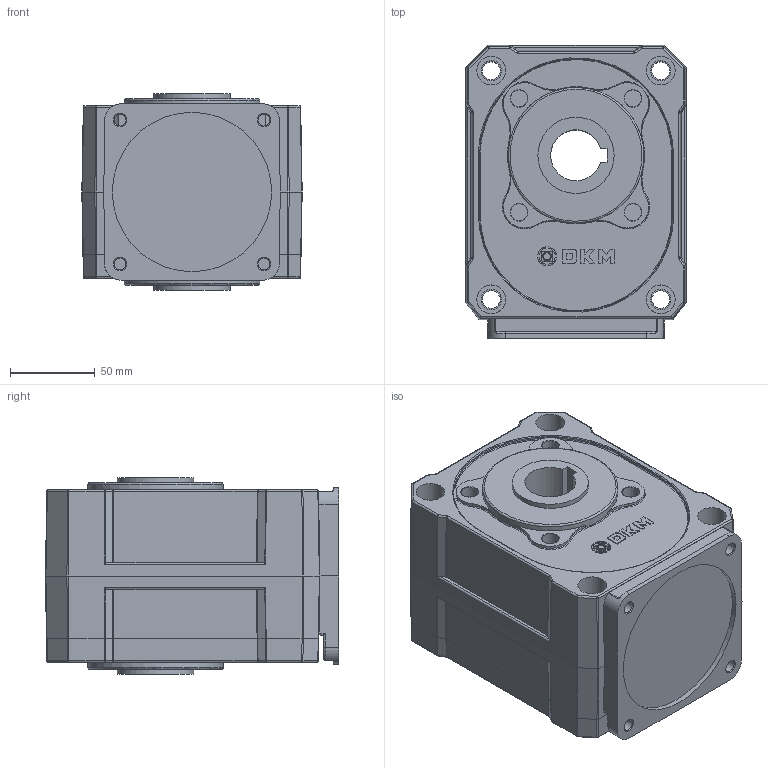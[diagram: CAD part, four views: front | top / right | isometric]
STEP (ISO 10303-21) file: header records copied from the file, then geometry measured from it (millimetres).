
FILE_DESCRIPTION (( 'STEP AP203' ), '1' );
FILE_NAME ('104S 橫撬綰葬.STEP', '2020-04-21T00:38:27', ( '' ), ( '' ), 'SwSTEP 2.0', 'SolidWorks 2012', '' );
FILE_SCHEMA (( 'CONFIG_CONTROL_DESIGN' ));
Length unit declared in the file: millimetre
Products named in the file (4): 104S 橫撬綰葬; 10HCS; 104S_COVER; 104S_CASE
Assembly tree (3 placements, depth 2):
  104S 橫撬綰葬
    104S_CASE
    104S_COVER
    10HCS
Bounding box: 130 x 173 x 116 mm (x, y, z)
Volume: 1974357.4 mm3; surface area: 218399.8 mm2
Topology: 3 solids, 8 shells, 635 faces, 1502 edges, 931 vertices
Faces by surface type: plane 253, cylinder 199, bspline 161, cone 22
Full cylindrical faces by diameter (mm): 3.993 x2, 5.269 x2, 6 x4, 7 x8, 10 x4, 10.5 x4, 12 x8, 12.2 x4, 17 x8, 23 x1, 45 x3, 94 x1
Entity records: 21938 total; most frequent: CARTESIAN_POINT 8391, ORIENTED_EDGE 2830, DIRECTION 2380, EDGE_CURVE 1415, VERTEX_POINT 910, AXIS2_PLACEMENT_3D 822, EDGE_LOOP 787, VECTOR 736
